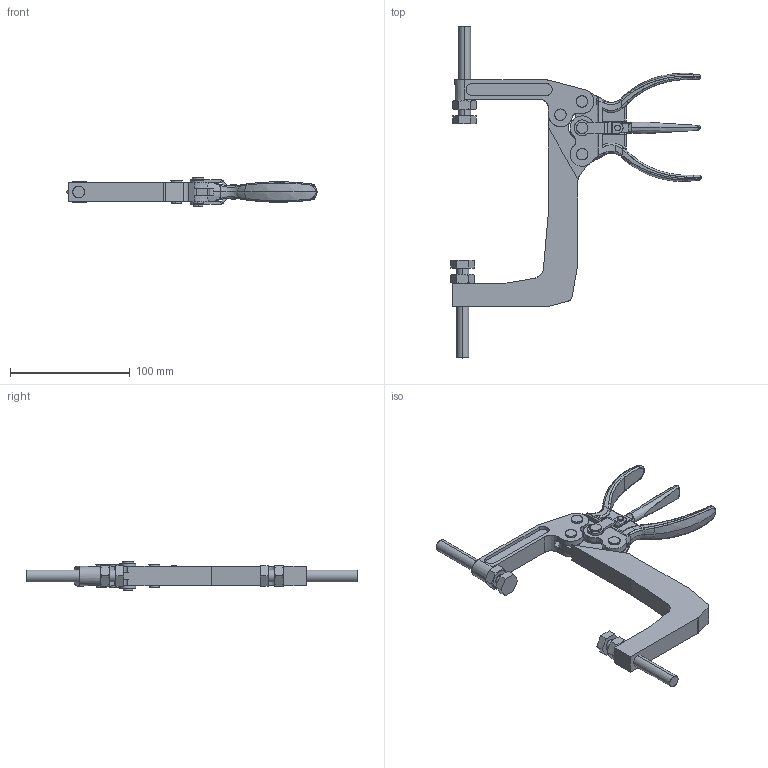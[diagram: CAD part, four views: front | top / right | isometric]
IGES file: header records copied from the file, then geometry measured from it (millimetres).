
Start section: SolidWorks IGES file using analytic representation for surfaces
Global section: file name: C:\Projetos\Grampos\Alicates\KFA-150\KFA-150-2\KFA-150-2.IGS; native system: SolidWorks 2013; preprocessor: SolidWorks 2013; author: Ricardo; date: 140904.152954; units: millimetre
Bounding box: 208.62 x 277 x 23.5 mm (x, y, z)
Surface area: 62281.1 mm2 (no closed solid volume)
Topology: 0 solids, 0 shells, 441 faces, 6396 edges, 6384 vertices
Faces by surface type: bspline 228, revolution 213
